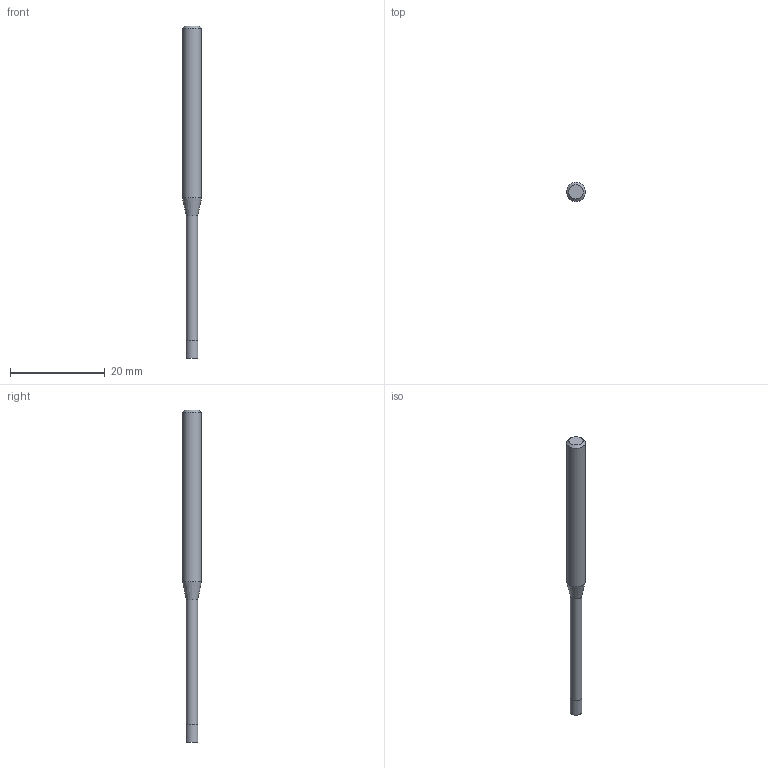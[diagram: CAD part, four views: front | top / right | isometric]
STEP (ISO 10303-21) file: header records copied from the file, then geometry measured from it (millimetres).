
FILE_DESCRIPTION((''),'2;1');
FILE_NAME('C:\Users\nsx150\AppData\Local\Temp\Mastercam 2021\17T8Q8S9EB\TEMP.step','2021-04-21T14:28:13',(''),(''),'STEP Write','Mastercam 2021 ... CNC Software, Inc.','');
FILE_SCHEMA(('AUTOMOTIVE_DESIGN'));
Length unit declared in the file: millimetre
Products named in the file (1): None
Bounding box: 4 x 4 x 70 mm (x, y, z)
Volume: 622 mm3; surface area: 744.3 mm2
Topology: 2 solids, 2 shells, 9 faces, 12 edges, 7 vertices
Faces by surface type: plane 4, cylinder 3, cone 2
Full cylindrical faces by diameter (mm): 2.4 x1, 2.5 x1, 4 x1
Entity records: 211 total; most frequent: DIRECTION 36, CARTESIAN_POINT 25, AXIS2_PLACEMENT_3D 18, ORIENTED_EDGE 14, EDGE_LOOP 14, STYLED_ITEM 12, ADVANCED_FACE 9, FACE_BOUND 8
